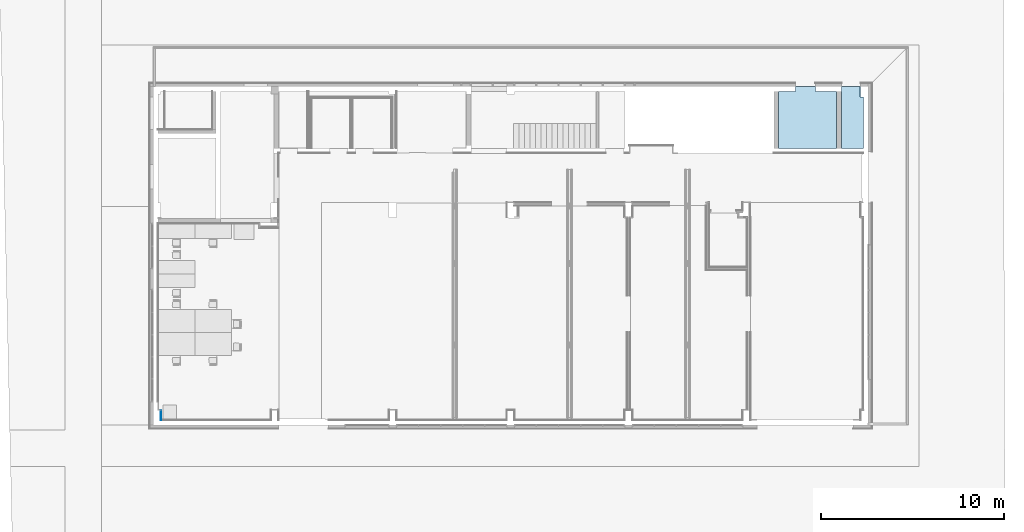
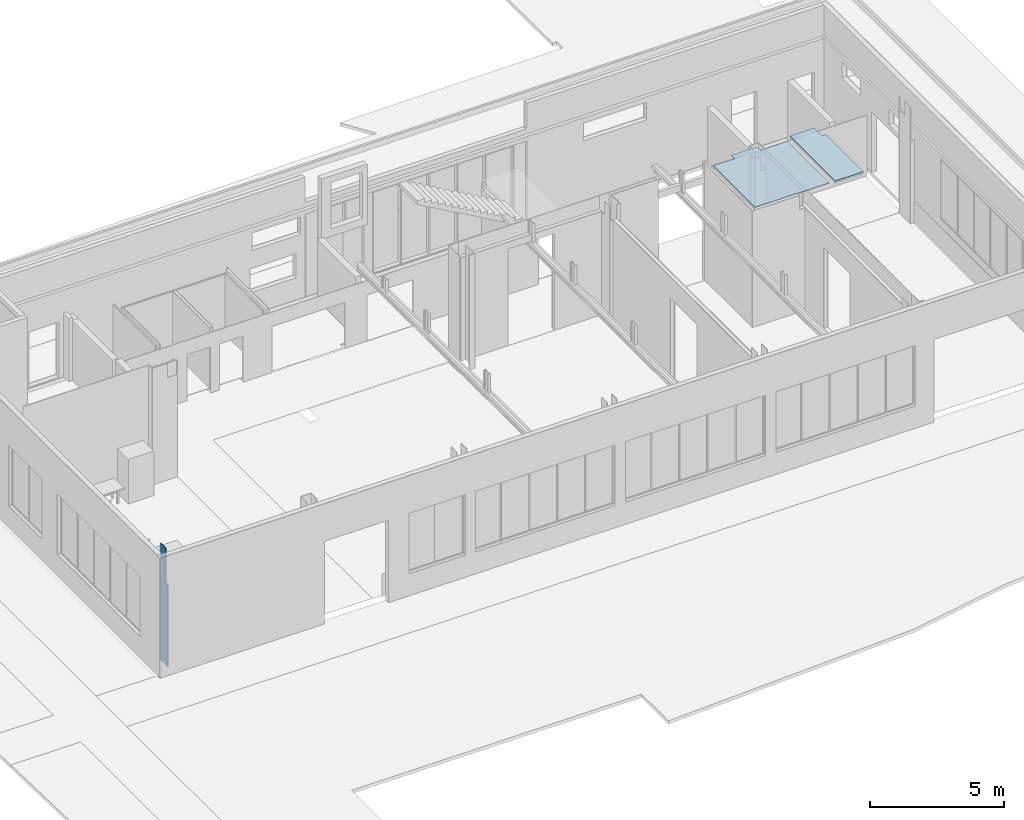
# One storey, part 10 of 27: 6 slabs, 1 wall.
"""IFC2X3 building model written with IfcOpenShell, lengths in centimetres."""

from ifc_helpers import new_model, entity, si_unit, converted_unit, derived_unit, direction, frame, frame_2d, origin, place, context, subcontext, project, spatial, polyline, rectangle, outline, extrude, clip, bounded_halfspace, material, layer, layer_set, layer_usage, type_object, element, save


model = new_model("IFC2X3")

# Units and contexts
model_context = context("Model", 3, precision=0.001, world=origin(), true_north=direction((6.12303176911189e-17, 1.0)))
body_context = subcontext(model_context, "Body", "Model", "MODEL_VIEW")
ifc_project = project(units=[si_unit("LENGTHUNIT", "METRE", prefix="CENTI"), si_unit("AREAUNIT", "SQUARE_METRE"), si_unit("VOLUMEUNIT", "CUBIC_METRE"), converted_unit("PLANEANGLEUNIT", "DEGREE", entity("IfcRatioMeasure", 0.0174532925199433), si_unit("PLANEANGLEUNIT", "RADIAN"), dimensions=[0, 0, 0, 0, 0, 0, 0]), si_unit("MASSUNIT", "GRAM", prefix="KILO"), derived_unit("MASSDENSITYUNIT", [(si_unit("MASSUNIT", "GRAM", prefix="KILO"), 1), (si_unit("LENGTHUNIT", "METRE"), -3)]), derived_unit("MOMENTOFINERTIAUNIT", [(si_unit("LENGTHUNIT", "METRE"), 4)]), si_unit("TIMEUNIT", "SECOND"), si_unit("FREQUENCYUNIT", "HERTZ"), si_unit("THERMODYNAMICTEMPERATUREUNIT", "DEGREE_CELSIUS"), derived_unit("THERMALTRANSMITTANCEUNIT", [(si_unit("MASSUNIT", "GRAM", prefix="KILO"), 1), (si_unit("THERMODYNAMICTEMPERATUREUNIT", "KELVIN"), -1), (si_unit("TIMEUNIT", "SECOND"), -3)]), derived_unit("VOLUMETRICFLOWRATEUNIT", [(si_unit("LENGTHUNIT", "METRE"), 3), (si_unit("TIMEUNIT", "SECOND"), -1)]), si_unit("ELECTRICCURRENTUNIT", "AMPERE"), si_unit("ELECTRICVOLTAGEUNIT", "VOLT"), si_unit("POWERUNIT", "WATT"), si_unit("FORCEUNIT", "NEWTON", prefix="KILO"), si_unit("ILLUMINANCEUNIT", "LUX"), si_unit("LUMINOUSFLUXUNIT", "LUMEN"), si_unit("LUMINOUSINTENSITYUNIT", "CANDELA"), derived_unit("USERDEFINED", [(si_unit("MASSUNIT", "GRAM", prefix="KILO"), -1), (si_unit("LENGTHUNIT", "METRE"), -2), (si_unit("TIMEUNIT", "SECOND"), 3), (si_unit("LUMINOUSFLUXUNIT", "LUMEN"), 1)]), derived_unit("LINEARVELOCITYUNIT", [(si_unit("LENGTHUNIT", "METRE"), 1), (si_unit("TIMEUNIT", "SECOND"), -1)]), si_unit("PRESSUREUNIT", "PASCAL"), derived_unit("USERDEFINED", [(si_unit("LENGTHUNIT", "METRE"), -2), (si_unit("MASSUNIT", "GRAM", prefix="KILO"), 1), (si_unit("TIMEUNIT", "SECOND"), -2)]), derived_unit("LINEARFORCEUNIT", [(si_unit("MASSUNIT", "GRAM", prefix="KILO"), 1), (si_unit("LENGTHUNIT", "METRE"), 1), (si_unit("TIMEUNIT", "SECOND"), -2), (si_unit("LENGTHUNIT", "METRE"), -1)]), derived_unit("PLANARFORCEUNIT", [(si_unit("MASSUNIT", "GRAM", prefix="KILO"), 1), (si_unit("LENGTHUNIT", "METRE"), 1), (si_unit("TIMEUNIT", "SECOND"), -2), (si_unit("LENGTHUNIT", "METRE"), -2)])], contexts=[model_context])

# Site, building, storey
site_placement = place(None, origin())
site = spatial("IfcSite", under=ifc_project, at=site_placement, Name="Default", CompositionType="ELEMENT")
building_placement = place(site_placement, origin())
building = spatial("IfcBuilding", under=site, at=building_placement, CompositionType="ELEMENT")
storey_placement = place(building_placement, origin())
storey = spatial("IfcBuildingStorey", under=building, at=storey_placement, Name="Poziom 0 A +/-0,00", CompositionType="ELEMENT", Elevation=3.38570427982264e-11)

# Slabs
ifc_material_1 = material(Name="Gres jasny")
ifc_layer_1 = layer(ifc_material_1, 2.0)
ifc_layer_set_1 = layer_set([ifc_layer_1], Name="Strop:Gres na kleju gr. 2cm techniczne")
ifc_layer_usage_1 = layer_usage(ifc_layer_set_1, "AXIS3", "POSITIVE", 0.0)
slab_type_1 = type_object("IfcSlabType", Name="Strop:Gres na kleju gr. 2cm techniczne", PredefinedType="FLOOR", material=ifc_layer_set_1)
slab_1_placement = place(storey_placement, frame((-2246.76511972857, 1768.12743150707, 0.0)))
element("IfcSlab", 1, at=slab_1_placement, inside=storey, type_object=slab_type_1, material=ifc_layer_usage_1, Name="Strop:Gres na kleju gr. 2cm techniczne:4", ObjectType="Strop:Gres na kleju gr. 2cm techniczne", PredefinedType="FLOOR", context=body_context, shape_type="SweptSolid", body=[
    extrude(outline(polyline([(-1478.74997331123, 143.50000955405), (-1478.74997331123, 168.50000955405), (-1581.2499913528, 168.50000955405), (-1581.2499913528, 111.000010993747), (-1598.75000875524, 111.000010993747), (-1598.75000875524, -168.499989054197), (-1477.74998265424, -168.499989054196), (-1477.74998265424, 143.50000955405), (-1478.74997331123, 143.50000955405)])), frame((1598.75000875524, 168.500009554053, 2.0), z_axis=(0.0, 0.0, -1.0), x_axis=(-1.0, 0.0, 0.0)), (0.0, 0.0, 1.0), 2.0),
])
ifc_material_2 = material(Name="Wylewka")
ifc_layer_2 = layer(ifc_material_2, 10.0)
ifc_layer_set_2 = layer_set([ifc_layer_2], Name="Strop:Wylewka betonowa gr. 10cm")
ifc_layer_usage_2 = layer_usage(ifc_layer_set_2, "AXIS3", "POSITIVE", 0.0)
slab_type_2 = type_object("IfcSlabType", Name="Strop:Wylewka betonowa gr. 10cm", PredefinedType="FLOOR", material=ifc_layer_set_2)
slab_2_placement = place(storey_placement, origin())
element("IfcSlab", 2, at=slab_2_placement, inside=storey, type_object=slab_type_2, material=ifc_layer_usage_2, Name="Strop:Wylewka betonowa gr. 10cm", ObjectType="Strop:Wylewka betonowa gr. 10cm", PredefinedType="FLOOR", context=body_context, shape_type="SweptSolid", body=[
    extrude(outline(polyline([(-232.749998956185, -56.7500018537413), (79.2499996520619, -56.7500018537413), (79.2499996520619, -55.7500111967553), (104.249999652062, -55.7500111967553), (104.249999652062, 48.2499888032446), (49.2499996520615, 48.2499888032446), (49.2499996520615, 64.2500242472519), (-232.749998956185, 64.2500242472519), (-232.749998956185, -56.7500018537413)])), frame((886.484873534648, 2000.87745096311, 0.0), z_axis=(0.0, 0.0, -1.0), x_axis=(0.0, 1.0, 0.0)), (0.0, 0.0, 1.0), 10.0),
])
ifc_layer_usage_3 = layer_usage(ifc_layer_set_1, "AXIS3", "POSITIVE", 0.0)
slab_type_3 = type_object("IfcSlabType", Name="Strop:Gres na kleju gr. 2cm techniczne", PredefinedType="FLOOR")
slab_3_placement = place(storey_placement, frame((486.234878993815, 1768.12745200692, 0.0)))
element("IfcSlab", 3, at=slab_3_placement, inside=storey, type_object=slab_type_3, material=ifc_layer_usage_3, Name="Strop:Gres na kleju gr. 2cm techniczne", ObjectType="Strop:Gres na kleju gr. 2cm techniczne", PredefinedType="FLOOR", context=body_context, shape_type="SweptSolid", body=[
    extrude(outline(polyline([(232.250009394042, -168.499999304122), (232.250009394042, 143.499999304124), (140.25001037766, 143.499999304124), (140.25001037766, 168.499999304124), (30.2500103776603, 168.499999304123), (30.2500103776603, 143.499999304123), (-86.2499832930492, 143.499999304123), (-86.2499832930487, -168.499999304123), (232.250009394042, -168.499999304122)])), frame((232.250009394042, 168.499999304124, 2.0), z_axis=(0.0, 0.0, -1.0), x_axis=(-1.0, 0.0, 0.0)), (0.0, 0.0, 1.0), 2.0),
])
slab_type_4 = type_object("IfcSlabType", Name="Strop:Gres na kleju gr. 2cm techniczne", PredefinedType="FLOOR", material=ifc_layer_set_1)
slab_4_placement = place(storey_placement, frame((486.234878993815, 1768.12745200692, 0.0)))
element("IfcSlab", 4, at=slab_4_placement, inside=storey, type_object=slab_type_4, material=ifc_layer_usage_3, Name="Strop:Gres na kleju gr. 2cm techniczne:2", ObjectType="Strop:Gres na kleju gr. 2cm techniczne", PredefinedType="FLOOR", context=body_context, shape_type="SweptSolid", body=[
    extrude(outline(polyline([(-112.249973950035, 143.499999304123), (-112.249973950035, 168.499999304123), (-214.749991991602, 168.499999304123), (-214.749991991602, 111.00000074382), (-232.250009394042, 111.00000074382), (-232.250009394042, -168.499999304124), (-111.249983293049, -168.499999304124), (-111.249983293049, 143.499999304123), (-112.249973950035, 143.499999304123)])), frame((232.250009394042, 168.499999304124, 2.0), z_axis=(0.0, 0.0, -1.0), x_axis=(-1.0, 0.0, 0.0)), (0.0, 0.0, 1.0), 2.0),
])
ifc_layer_usage_4 = layer_usage(ifc_layer_set_1, "AXIS3", "POSITIVE", 0.0)
slab_type_5 = type_object("IfcSlabType", Name="Strop:Gres na kleju gr. 2cm techniczne", PredefinedType="FLOOR", material=ifc_layer_set_1)
slab_5_placement = place(storey_placement, origin())
element("IfcSlab", 5, at=slab_5_placement, inside=storey, type_object=slab_type_5, material=ifc_layer_usage_4, Name="Strop:Gres na kleju gr. 2cm techniczne", ObjectType="Strop:Gres na kleju gr. 2cm techniczne", PredefinedType="FLOOR", context=body_context, shape_type="SweptSolid", body=[
    extrude(outline(polyline([(-232.124999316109, -56.375006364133), (79.8749992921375, -56.375006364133), (79.8749992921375, -55.375015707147), (104.874999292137, -55.375015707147), (104.874999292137, 47.1250023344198), (47.3750007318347, 47.1250023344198), (47.3750007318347, 64.6250197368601), (-232.124999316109, 64.6250197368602), (-232.124999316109, -56.375006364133)])), frame((886.10987804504, 2000.25245132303, 2.0), z_axis=(0.0, 0.0, -1.0), x_axis=(0.0, 1.0, 0.0)), (0.0, 0.0, 1.0), 2.0),
])
ifc_layer_usage_5 = layer_usage(ifc_layer_set_1, "AXIS3", "POSITIVE", 0.0)
slab_type_6 = type_object("IfcSlabType", Name="Strop:Gres na kleju gr. 2cm techniczne", PredefinedType="FLOOR", material=ifc_layer_set_1)
slab_6_placement = place(storey_placement, origin())
element("IfcSlab", 6, at=slab_6_placement, inside=storey, type_object=slab_type_6, material=ifc_layer_usage_5, Name="Strop:Gres na kleju gr. 2cm techniczne", ObjectType="Strop:Gres na kleju gr. 2cm techniczne", PredefinedType="FLOOR", context=body_context, shape_type="SweptSolid", body=[
    extrude(outline(polyline([(-240.249998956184, -153.124997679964), (71.7499996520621, -153.124997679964), (71.7499996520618, -61.1249986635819), (96.7499996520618, -61.1249986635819), (96.7499996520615, 48.875001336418), (71.7499996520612, 48.875001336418), (71.7499996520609, 165.374995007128), (-240.249998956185, 165.374995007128), (-240.249998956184, -153.124997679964)])), frame((639.359876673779, 2008.37745096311, 2.0), z_axis=(0.0, 0.0, -1.0), x_axis=(0.0, 1.0, 0.0)), (0.0, 0.0, 1.0), 2.0),
])

# Wall
ifc_material_3 = material(Name="Tynk gipsowy")
ifc_layer_3 = layer(ifc_material_3, 2.5)
ifc_layer_set_3 = layer_set([ifc_layer_3], Name="Ściana podstawowa:Tynk wykończenie gr. 2,5cm")
ifc_layer_usage_6 = layer_usage(ifc_layer_set_3, "AXIS2", "NEGATIVE", 1.25)
wall_type = type_object("IfcWallType", Name="Ściana podstawowa:Tynk wykończenie gr. 2,5cm", PredefinedType="STANDARD", material=ifc_layer_set_3)
wall_placement = place(storey_placement, frame((-2893.01511650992, 335.127657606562, 0.0), z_axis=(0.0, 0.0, 1.0), x_axis=(0.0, -1.0, 0.0)))
element("IfcWallStandardCase", 7, at=wall_placement, inside=storey, type_object=wall_type, material=ifc_layer_usage_6, Name="Ściana podstawowa:Tynk wykończenie gr. 2,5cm", ObjectType="Ściana podstawowa:Tynk wykończenie gr. 2,5cm", context=body_context, shape_type="Clipping", body=[
    clip(clip(extrude(rectangle(XDim=55.0001582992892, YDim=2.5000000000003, at=frame_2d((27.5000791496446, 0.0), x_axis=(-1.0, 0.0))), origin(), (0.0, 0.0, 1.0), 529.999999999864), bounded_halfspace(frame((40.0002055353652, -1.2499916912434, 375.0), z_axis=(1.0, 0.0, 0.0), x_axis=(0.0, 0.0, -1.0)), False, frame((40.0002055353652, -1.2499916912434, 375.0), z_axis=(1.0, 0.0, 0.0), x_axis=(0.0, 0.0, -1.0)), polyline([(0.0, 0.0), (0.0, 2.49999169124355), (-155.0, 2.49999169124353), (-155.0, -8.308756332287e-06), (0.0, 0.0)]))), bounded_halfspace(frame((40.0002055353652, 1.25000000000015, 375.0)), False, frame((40.0002055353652, 1.25000000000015, 375.0)), polyline([(0.0, 0.0), (0.0, -2.49999169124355), (14.999952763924, -2.49999999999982), (14.999952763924, 0.0), (0.0, 0.0)]))),
])

save(model, "model.ifc")
